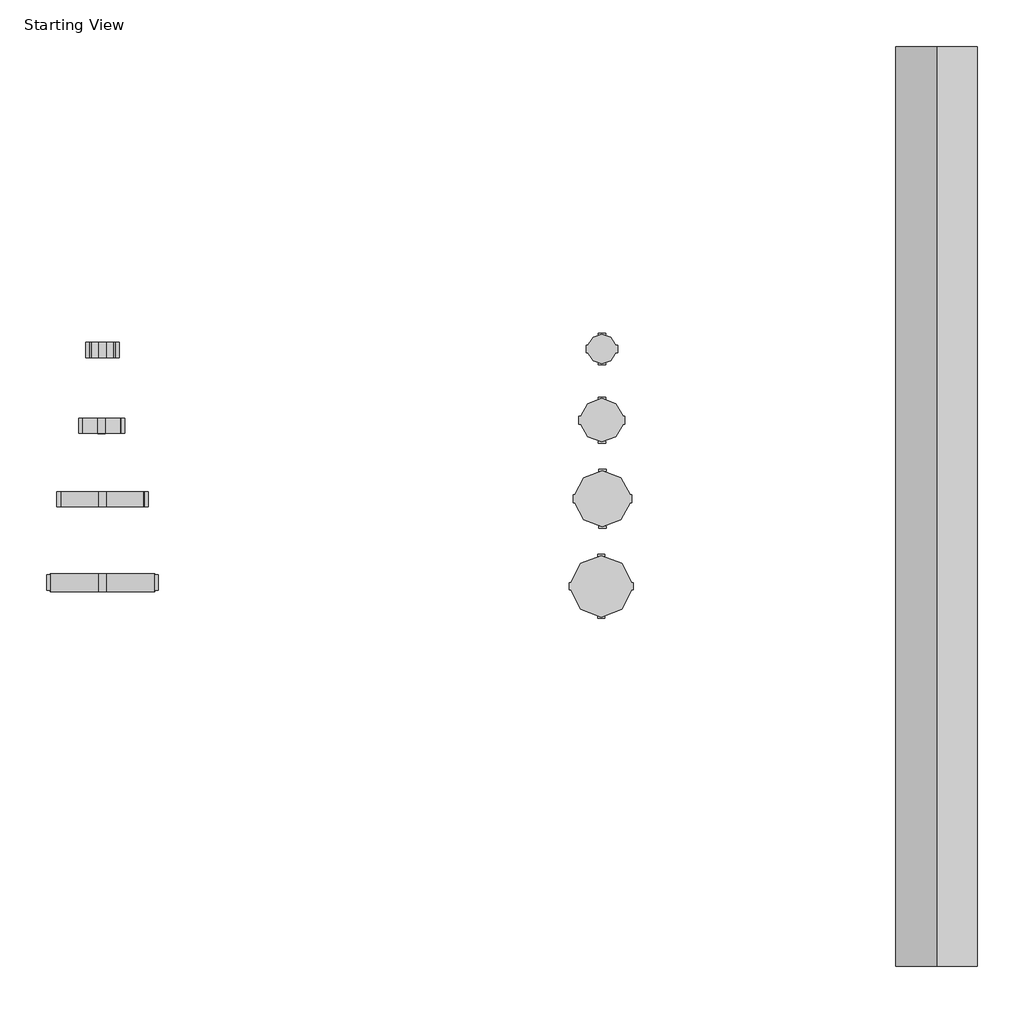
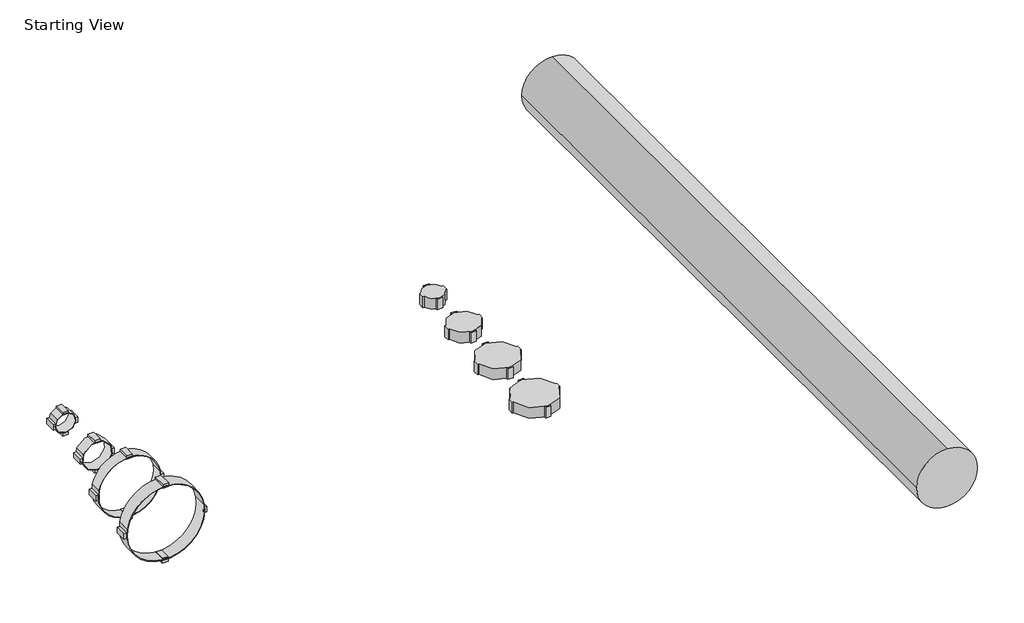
# One storey, incomplete: 8 pipe fittings, 1 pipe segment.
"""IFC4 building model written with IfcOpenShell, lengths in millimetres."""

from ifc_helpers import new_model, si_unit, point, frame, frame_2d, origin, place, context, project, spatial, circle_curve, trimmed, segment, composite_curve, outline, extrude, transform, mapped, element, save
from components import pipe_fitting_100mm_fdddaf2e, pipe_fitting_160mm_c2188202, pipe_fitting_200mm_55e5a060, pipe_fitting_50mm_5bbf13a5, pipe_fitting_50mm_8b020d9f, pipe_fitting_70mm_64366088, pipe_fitting_75mm_203993a5, pipe_fitting_90mm_3d6ca8c2

model = new_model("IFC4")

# Units and contexts
model_context = context("Model", 3, world=origin())
ifc_project = project(units=[si_unit("LENGTHUNIT", "METRE", prefix="MILLI")], contexts=[model_context])

# Site, building, storey
site = spatial("IfcSite", under=ifc_project)
building = spatial("IfcBuilding", under=site)
storey = spatial("IfcBuildingStorey", under=building, Name="Starting View", Elevation=0.0)

# Pipe fittings
placement = place(None, origin())
pipe_fitting_100mm_shape = pipe_fitting_100mm_fdddaf2e(model_context)
element("IfcPipeFitting", 1, ObjectType="AmancoWavin_Accesoriosdetubería_AS+_Abrazadera : 100mm", at=placement, inside=storey, context=model_context, shape_type="MappedRepresentation", body=[
    mapped(pipe_fitting_100mm_shape, transform((10998.0422354, 4130.9103188, 0.0), x_axis=(1.0, 0.0, 0.0), y_axis=(0.0, 1.0, 0.0), z_axis=(0.0, 0.0, 1.0))),
])
pipe_fitting_160mm_shape = pipe_fitting_160mm_c2188202(model_context)
element("IfcPipeFitting", 2, ObjectType="AmancoWavin_Accesoriosdetubería_AS+_Soporte : 160mm", at=placement, inside=storey, context=model_context, shape_type="MappedRepresentation", body=[
    mapped(pipe_fitting_160mm_shape, transform((10022.2061862, 4301.4340394, 0.0), x_axis=(1.0, 0.0, 0.0), y_axis=(0.0, 1.0, 0.0), z_axis=(0.0, 0.0, 1.0))),
])
pipe_fitting_200mm_shape = pipe_fitting_200mm_55e5a060(model_context)
element("IfcPipeFitting", 3, ObjectType="AmancoWavin_Accesoriosdetubería_AS+_Soporte : 200mm", at=placement, inside=storey, context=model_context, shape_type="MappedRepresentation", body=[
    mapped(pipe_fitting_200mm_shape, transform((10021.9163526, 4138.2620409, 0.0), x_axis=(1.0, 0.0, 0.0), y_axis=(0.0, 1.0, 0.0), z_axis=(0.0, 0.0, 1.0))),
])
pipe_fitting_50mm_shape = pipe_fitting_50mm_5bbf13a5(model_context)
element("IfcPipeFitting", 4, ObjectType="AmancoWavin_Accesoriosdetubería_AS+_Abrazadera : 50mm", at=placement, inside=storey, context=model_context, shape_type="MappedRepresentation", body=[
    mapped(pipe_fitting_50mm_shape, transform((10999.2701588, 4595.5756839, 0.0), x_axis=(1.0, 0.0, 0.0), y_axis=(0.0, 1.0, 0.0), z_axis=(0.0, 0.0, 1.0))),
])
pipe_fitting_50mm_2_shape = pipe_fitting_50mm_8b020d9f(model_context)
element("IfcPipeFitting", 5, ObjectType="AmancoWavin_Accesoriosdetubería_AS+_Soporte : 50mm", at=placement, inside=storey, context=model_context, shape_type="MappedRepresentation", body=[
    mapped(pipe_fitting_50mm_2_shape, transform((10021.9163526, 4593.2605594, 0.0), x_axis=(1.0, 0.0, 0.0), y_axis=(0.0, 1.0, 0.0), z_axis=(0.0, 0.0, 1.0))),
])
pipe_fitting_70mm_shape = pipe_fitting_70mm_64366088(model_context)
element("IfcPipeFitting", 6, ObjectType="AmancoWavin_Accesoriosdetubería_AS+_Abrazadera : 70mm", at=placement, inside=storey, context=model_context, shape_type="MappedRepresentation", body=[
    mapped(pipe_fitting_70mm_shape, transform((10999.2701588, 4456.1259721, 0.0), x_axis=(1.0, 0.0, 0.0), y_axis=(0.0, 1.0, 0.0), z_axis=(0.0, 0.0, 1.0))),
])
pipe_fitting_75mm_shape = pipe_fitting_75mm_203993a5(model_context)
element("IfcPipeFitting", 7, ObjectType="AmancoWavin_Accesoriosdetubería_AS+_Soporte : 75mm", at=placement, inside=storey, context=model_context, shape_type="MappedRepresentation", body=[
    mapped(pipe_fitting_75mm_shape, transform((10020.1530747, 4445.1209423, 0.0), x_axis=(1.0, 0.0, 0.0), y_axis=(0.0, 1.0, 0.0), z_axis=(0.0, 0.0, 1.0))),
])
pipe_fitting_90mm_shape = pipe_fitting_90mm_3d6ca8c2(model_context)
element("IfcPipeFitting", 8, ObjectType="AmancoWavin_Accesoriosdetubería_AS+_Abrazadera : 90mm", at=placement, inside=storey, context=model_context, shape_type="MappedRepresentation", body=[
    mapped(pipe_fitting_90mm_shape, transform((11000.2701588, 4302.3655279, 0.0), x_axis=(1.0, 0.0, 0.0), y_axis=(0.0, 1.0, 0.0), z_axis=(0.0, 0.0, 1.0))),
])

# Pipe segment
element("IfcPipeSegment", 9, ObjectType="AmancoWavin_Tuberías_AS+", at=placement, inside=storey, context=model_context, shape_type="SweptSolid", body=[
    extrude(outline(composite_curve([segment(trimmed(circle_curve(frame_2d((0.0, 11654.3034428)), 80.0), [point((0.0, 11574.3034428))], [point((-80.0, 11654.3034428))], False, "CARTESIAN"), True, "CONTINUOUS"), segment(trimmed(circle_curve(frame_2d((0.0, 11654.3034428)), 80.0), [point((-80.0, 11654.3034428))], [point((0.0, 11734.3034428))], False, "CARTESIAN"), True, "CONTINUOUS"), segment(trimmed(circle_curve(frame_2d((0.0, 11654.3034428)), 80.0), [point((0.0, 11734.3034428))], [point((80.0, 11654.3034428))], False, "CARTESIAN"), True, "CONTINUOUS"), segment(trimmed(circle_curve(frame_2d((0.0, 11654.3034428)), 80.0), [point((80.0, 11654.3034428))], [point((0.0, 11574.3034428))], False, "CARTESIAN"), True, "CONTINUOUS")], self_intersect=False)), frame((0.0, 3387.4121967, 0.0), z_axis=(0.0, 1.0, 0.0), x_axis=(0.0, 0.0, 1.0)), (0.0, 0.0, 1.0), 1800.0),
])

save(model, "model.ifc")
